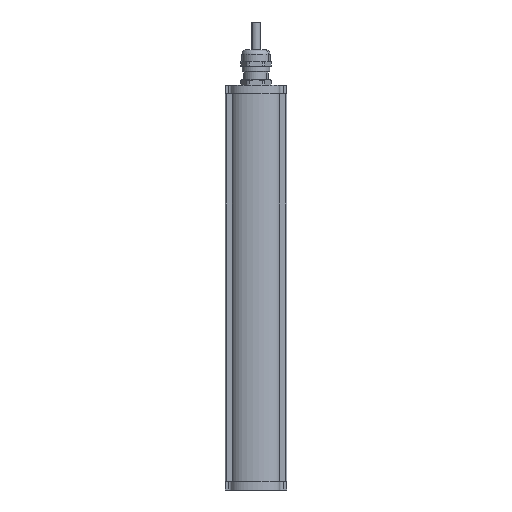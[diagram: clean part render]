
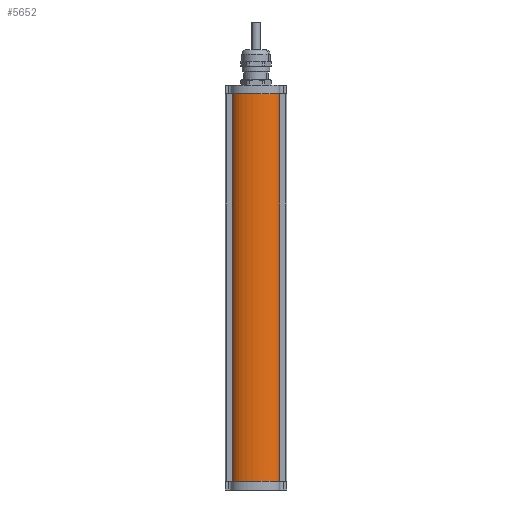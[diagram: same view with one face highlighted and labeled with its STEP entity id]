
A CAD part, front view. The second image highlights one B-rep face of the part: STEP entity #5652.
In plain terms, the highlighted free-form (B-spline) face has degree [3, 1] with [4, 2] control points.
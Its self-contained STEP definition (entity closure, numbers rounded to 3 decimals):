
#118 = VERTEX_POINT ( 'NONE', #7541 ) ;
#449 = CARTESIAN_POINT ( 'NONE',  ( 13.362, 24., -220. ) ) ;
#765 =( BOUNDED_CURVE ( )  B_SPLINE_CURVE ( 3, ( #11602, #2981, #8362, #1944 ),
 .UNSPECIFIED., .F., .F. ) 
 B_SPLINE_CURVE_WITH_KNOTS ( ( 4, 4 ),
 ( 3.285, 6.14 ),
 .UNSPECIFIED. ) 
 CURVE ( )  GEOMETRIC_REPRESENTATION_ITEM ( )  RATIONAL_B_SPLINE_CURVE ( ( 1., 0.429, 0.429, 1. ) ) 
 REPRESENTATION_ITEM ( '' )  );
#816 = CARTESIAN_POINT ( 'NONE',  ( 13.362, 24., 0. ) ) ;
#826 = CARTESIAN_POINT ( 'NONE',  ( 13.362, 24., 0. ) ) ;
#987 = DIRECTION ( 'NONE',  ( 0., 0., 1. ) ) ;
#1108 = ORIENTED_EDGE ( 'NONE', *, *, #8091, .F. ) ;
#1118 = CARTESIAN_POINT ( 'NONE',  ( 10.392, 34.667, -220. ) ) ;
#1227 = VECTOR ( 'NONE', #12622, 1000. ) ;
#1503 = CARTESIAN_POINT ( 'NONE',  ( 10.392, 34.667, 0. ) ) ;
#1944 = CARTESIAN_POINT ( 'NONE',  ( -13.362, 24., -220. ) ) ;
#2200 = VERTEX_POINT ( 'NONE', #9219 ) ;
#2547 = CARTESIAN_POINT ( 'NONE',  ( 13.362, 24., 0. ) ) ;
#2977 = CARTESIAN_POINT ( 'NONE',  ( 10.392, 34.667, 0. ) ) ;
#2981 = CARTESIAN_POINT ( 'NONE',  ( 10.392, 34.667, -220. ) ) ;
#3016 = EDGE_CURVE ( 'NONE', #5556, #118, #4305, .T. ) ;
#3072 = EDGE_CURVE ( 'NONE', #2200, #5556, #765, .T. ) ;
#3350 = CARTESIAN_POINT ( 'NONE',  ( -10.392, 34.667, -220. ) ) ;
#3895 =( BOUNDED_SURFACE ( )  B_SPLINE_SURFACE ( 3, 1, ( 
 ( #449, #2547 ),
 ( #1118, #1503 ),
 ( #3350, #9547 ),
 ( #5344, #6298 ) ),
 .UNSPECIFIED., .F., .F., .F. ) 
 B_SPLINE_SURFACE_WITH_KNOTS ( ( 4, 4 ),
 ( 2, 2 ),
 ( 0., 1. ),
 ( 0., 1. ),
 .UNSPECIFIED. ) 
 GEOMETRIC_REPRESENTATION_ITEM ( )  RATIONAL_B_SPLINE_SURFACE ( (
 ( 1., 1.),
 ( 0.429, 0.429),
 ( 0.429, 0.429),
 ( 1., 1.) ) ) 
 REPRESENTATION_ITEM ( '' )  SURFACE ( )  );
#4119 = LINE ( 'NONE', #10371, #11113 ) ;
#4305 = LINE ( 'NONE', #11526, #1227 ) ;
#4482 = VERTEX_POINT ( 'NONE', #816 ) ;
#5344 = CARTESIAN_POINT ( 'NONE',  ( -13.362, 24., -220. ) ) ;
#5556 = VERTEX_POINT ( 'NONE', #11533 ) ;
#5652 = ADVANCED_FACE ( 'NONE', ( #13303 ), #3895, .T. ) ;
#6298 = CARTESIAN_POINT ( 'NONE',  ( -13.362, 24., 0. ) ) ;
#7541 = CARTESIAN_POINT ( 'NONE',  ( -13.362, 24., 0. ) ) ;
#8091 = EDGE_CURVE ( 'NONE', #4482, #118, #11908, .T. ) ;
#8197 = CARTESIAN_POINT ( 'NONE',  ( -10.392, 34.667, 0. ) ) ;
#8298 = ORIENTED_EDGE ( 'NONE', *, *, #10879, .F. ) ;
#8362 = CARTESIAN_POINT ( 'NONE',  ( -10.392, 34.667, -220. ) ) ;
#9219 = CARTESIAN_POINT ( 'NONE',  ( 13.362, 24., -220. ) ) ;
#9547 = CARTESIAN_POINT ( 'NONE',  ( -10.392, 34.667, 0. ) ) ;
#10201 = CARTESIAN_POINT ( 'NONE',  ( -13.362, 24., 0. ) ) ;
#10371 = CARTESIAN_POINT ( 'NONE',  ( 13.362, 24., -220. ) ) ;
#10788 = ORIENTED_EDGE ( 'NONE', *, *, #3072, .T. ) ;
#10879 = EDGE_CURVE ( 'NONE', #2200, #4482, #4119, .T. ) ;
#11113 = VECTOR ( 'NONE', #987, 1000. ) ;
#11526 = CARTESIAN_POINT ( 'NONE',  ( -13.362, 24., -220. ) ) ;
#11533 = CARTESIAN_POINT ( 'NONE',  ( -13.362, 24., -220. ) ) ;
#11602 = CARTESIAN_POINT ( 'NONE',  ( 13.362, 24., -220. ) ) ;
#11908 =( BOUNDED_CURVE ( )  B_SPLINE_CURVE ( 3, ( #826, #2977, #8197, #10201 ),
 .UNSPECIFIED., .F., .F. ) 
 B_SPLINE_CURVE_WITH_KNOTS ( ( 4, 4 ),
 ( 3.285, 6.14 ),
 .UNSPECIFIED. ) 
 CURVE ( )  GEOMETRIC_REPRESENTATION_ITEM ( )  RATIONAL_B_SPLINE_CURVE ( ( 1., 0.429, 0.429, 1. ) ) 
 REPRESENTATION_ITEM ( '' )  );
#12192 = EDGE_LOOP ( 'NONE', ( #1108, #8298, #10788, #12255 ) ) ;
#12255 = ORIENTED_EDGE ( 'NONE', *, *, #3016, .T. ) ;
#12622 = DIRECTION ( 'NONE',  ( 0., 0., 1. ) ) ;
#13303 = FACE_OUTER_BOUND ( 'NONE', #12192, .T. ) ;
